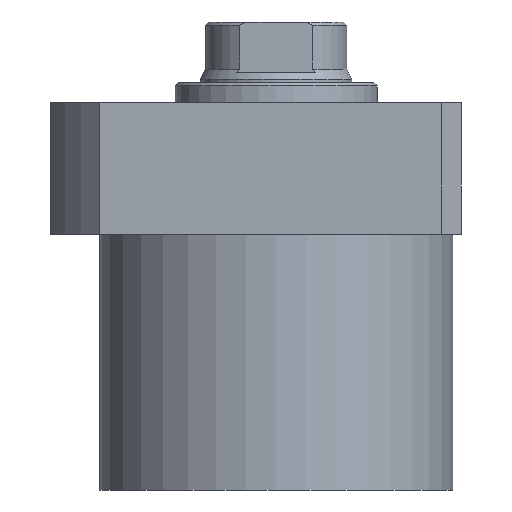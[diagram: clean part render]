
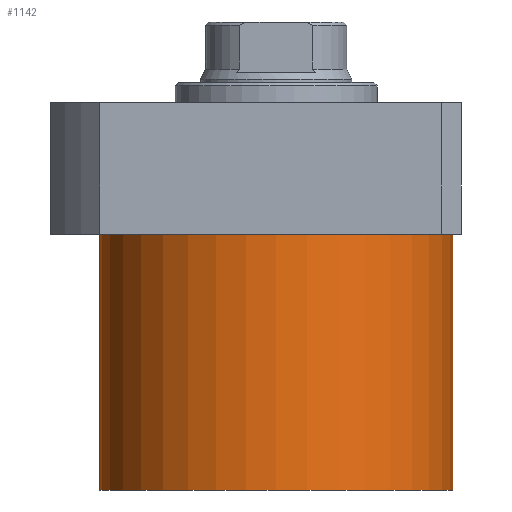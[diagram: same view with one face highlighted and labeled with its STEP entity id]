
A CAD part, front view. The second image highlights one B-rep face of the part: STEP entity #1142.
In plain terms, the highlighted cylindrical face has radius 52.5 mm (diameter 105 mm), a partial arc.
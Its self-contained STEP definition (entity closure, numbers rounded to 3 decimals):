
#39 = AXIS2_PLACEMENT_3D ( 'NONE', #933, #929, #179 ) ;
#102 = DIRECTION ( 'NONE',  ( 0., 0., 1. ) ) ;
#179 = DIRECTION ( 'NONE',  ( -1., 0., 0. ) ) ;
#223 = VERTEX_POINT ( 'NONE', #988 ) ;
#226 = CARTESIAN_POINT ( 'NONE',  ( -52.5, 0., -95.5 ) ) ;
#266 = LINE ( 'NONE', #1283, #1693 ) ;
#353 = CYLINDRICAL_SURFACE ( 'NONE', #977, 52.5 ) ;
#391 = VERTEX_POINT ( 'NONE', #1381 ) ;
#519 = DIRECTION ( 'NONE',  ( 0., 0., 1. ) ) ;
#547 = CIRCLE ( 'NONE', #1215, 52.5 ) ;
#618 = CARTESIAN_POINT ( 'NONE',  ( -52.5, 0., -19.5 ) ) ;
#657 = EDGE_CURVE ( 'NONE', #223, #1537, #547, .T. ) ;
#687 = VERTEX_POINT ( 'NONE', #226 ) ;
#799 = CARTESIAN_POINT ( 'NONE',  ( 52.5, 0., -95.5 ) ) ;
#847 = DIRECTION ( 'NONE',  ( 0., 0., 1. ) ) ;
#877 = ORIENTED_EDGE ( 'NONE', *, *, #1067, .F. ) ;
#929 = DIRECTION ( 'NONE',  ( 0., 0., -1. ) ) ;
#933 = CARTESIAN_POINT ( 'NONE',  ( 0., 0., -95.5 ) ) ;
#977 = AXIS2_PLACEMENT_3D ( 'NONE', #1457, #847, #1029 ) ;
#988 = CARTESIAN_POINT ( 'NONE',  ( 52.5, 0., -19.5 ) ) ;
#1029 = DIRECTION ( 'NONE',  ( 1., 0., 0. ) ) ;
#1058 = VECTOR ( 'NONE', #519, 1000. ) ;
#1064 = EDGE_LOOP ( 'NONE', ( #877, #1611, #1309, #1325 ) ) ;
#1067 = EDGE_CURVE ( 'NONE', #687, #1537, #266, .T. ) ;
#1142 = ADVANCED_FACE ( 'NONE', ( #1671 ), #353, .T. ) ;
#1215 = AXIS2_PLACEMENT_3D ( 'NONE', #1425, #1565, #1716 ) ;
#1283 = CARTESIAN_POINT ( 'NONE',  ( -52.5, 0., -95.5 ) ) ;
#1309 = ORIENTED_EDGE ( 'NONE', *, *, #1543, .T. ) ;
#1325 = ORIENTED_EDGE ( 'NONE', *, *, #657, .T. ) ;
#1372 = EDGE_CURVE ( 'NONE', #391, #687, #1572, .T. ) ;
#1381 = CARTESIAN_POINT ( 'NONE',  ( 52.5, 0., -95.5 ) ) ;
#1425 = CARTESIAN_POINT ( 'NONE',  ( 0., 0., -19.5 ) ) ;
#1457 = CARTESIAN_POINT ( 'NONE',  ( 0., 0., -95.5 ) ) ;
#1537 = VERTEX_POINT ( 'NONE', #618 ) ;
#1543 = EDGE_CURVE ( 'NONE', #391, #223, #1649, .T. ) ;
#1565 = DIRECTION ( 'NONE',  ( 0., 0., -1. ) ) ;
#1572 = CIRCLE ( 'NONE', #39, 52.5 ) ;
#1611 = ORIENTED_EDGE ( 'NONE', *, *, #1372, .F. ) ;
#1649 = LINE ( 'NONE', #799, #1058 ) ;
#1671 = FACE_OUTER_BOUND ( 'NONE', #1064, .T. ) ;
#1693 = VECTOR ( 'NONE', #102, 1000. ) ;
#1716 = DIRECTION ( 'NONE',  ( 1., 0., 0. ) ) ;
